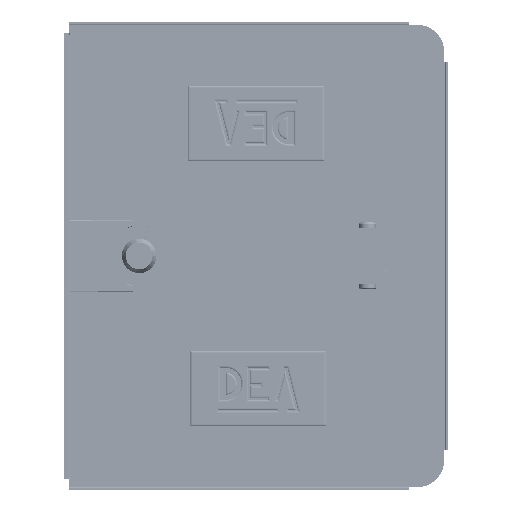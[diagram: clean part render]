
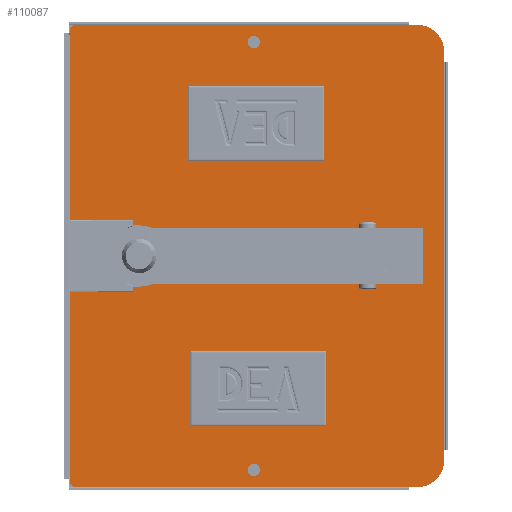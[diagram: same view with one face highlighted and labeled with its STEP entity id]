
A CAD part, top view. The second image highlights one B-rep face of the part: STEP entity #110087.
In plain terms, the highlighted planar face has unit normal (0, 0, 1).
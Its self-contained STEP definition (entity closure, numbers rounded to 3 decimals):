
#11368=CIRCLE('',#145583,5.5);
#11369=CIRCLE('',#145584,5.5);
#11370=CIRCLE('',#145585,24.5);
#11371=CIRCLE('',#145586,24.5);
#11372=CIRCLE('',#145587,5.);
#11373=CIRCLE('',#145588,5.);
#11374=CIRCLE('',#145589,27.5);
#11375=CIRCLE('',#145590,5.);
#11376=CIRCLE('',#145591,5.);
#18427=ORIENTED_EDGE('',*,*,#52223,.T.);
#18428=ORIENTED_EDGE('',*,*,#52224,.T.);
#18429=ORIENTED_EDGE('',*,*,#52225,.T.);
#18430=ORIENTED_EDGE('',*,*,#52226,.T.);
#18431=ORIENTED_EDGE('',*,*,#52227,.T.);
#18432=ORIENTED_EDGE('',*,*,#52228,.T.);
#18433=ORIENTED_EDGE('',*,*,#52229,.F.);
#18434=ORIENTED_EDGE('',*,*,#52230,.T.);
#18435=ORIENTED_EDGE('',*,*,#52231,.F.);
#18436=ORIENTED_EDGE('',*,*,#52232,.T.);
#18437=ORIENTED_EDGE('',*,*,#52233,.F.);
#18438=ORIENTED_EDGE('',*,*,#52234,.T.);
#18439=ORIENTED_EDGE('',*,*,#52235,.F.);
#18440=ORIENTED_EDGE('',*,*,#52236,.T.);
#18441=ORIENTED_EDGE('',*,*,#52237,.F.);
#18442=ORIENTED_EDGE('',*,*,#52238,.F.);
#18443=ORIENTED_EDGE('',*,*,#52239,.F.);
#18444=ORIENTED_EDGE('',*,*,#52240,.T.);
#18445=ORIENTED_EDGE('',*,*,#52241,.F.);
#18446=ORIENTED_EDGE('',*,*,#52242,.T.);
#18447=ORIENTED_EDGE('',*,*,#52243,.T.);
#18448=ORIENTED_EDGE('',*,*,#52244,.T.);
#18449=ORIENTED_EDGE('',*,*,#52245,.T.);
#18450=ORIENTED_EDGE('',*,*,#52246,.T.);
#52223=EDGE_CURVE('',#69240,#69241,#79594,.T.);
#52224=EDGE_CURVE('',#69241,#69242,#79595,.T.);
#52225=EDGE_CURVE('',#69242,#69243,#79596,.T.);
#52226=EDGE_CURVE('',#69243,#69240,#79597,.T.);
#52227=EDGE_CURVE('',#69244,#69244,#11368,.T.);
#52228=EDGE_CURVE('',#69245,#69245,#11369,.T.);
#52229=EDGE_CURVE('',#69246,#69247,#79598,.T.);
#52230=EDGE_CURVE('',#69246,#69248,#11370,.T.);
#52231=EDGE_CURVE('',#69249,#69248,#79599,.T.);
#52232=EDGE_CURVE('',#69249,#69250,#11371,.T.);
#52233=EDGE_CURVE('',#69251,#69250,#79600,.T.);
#52234=EDGE_CURVE('',#69251,#69252,#11372,.T.);
#52235=EDGE_CURVE('',#69253,#69252,#79601,.T.);
#52236=EDGE_CURVE('',#69253,#69254,#11373,.T.);
#52237=EDGE_CURVE('',#69255,#69254,#79602,.T.);
#52238=EDGE_CURVE('',#69256,#69255,#11374,.T.);
#52239=EDGE_CURVE('',#69257,#69256,#79603,.T.);
#52240=EDGE_CURVE('',#69257,#69258,#11375,.T.);
#52241=EDGE_CURVE('',#69259,#69258,#79604,.T.);
#52242=EDGE_CURVE('',#69259,#69247,#11376,.T.);
#52243=EDGE_CURVE('',#69260,#69261,#79605,.T.);
#52244=EDGE_CURVE('',#69261,#69262,#79606,.T.);
#52245=EDGE_CURVE('',#69262,#69263,#79607,.T.);
#52246=EDGE_CURVE('',#69263,#69260,#79608,.T.);
#69240=VERTEX_POINT('',#190333);
#69241=VERTEX_POINT('',#190334);
#69242=VERTEX_POINT('',#190336);
#69243=VERTEX_POINT('',#190338);
#69244=VERTEX_POINT('',#190341);
#69245=VERTEX_POINT('',#190343);
#69246=VERTEX_POINT('',#190345);
#69247=VERTEX_POINT('',#190346);
#69248=VERTEX_POINT('',#190348);
#69249=VERTEX_POINT('',#190350);
#69250=VERTEX_POINT('',#190352);
#69251=VERTEX_POINT('',#190354);
#69252=VERTEX_POINT('',#190356);
#69253=VERTEX_POINT('',#190358);
#69254=VERTEX_POINT('',#190360);
#69255=VERTEX_POINT('',#190362);
#69256=VERTEX_POINT('',#190364);
#69257=VERTEX_POINT('',#190366);
#69258=VERTEX_POINT('',#190368);
#69259=VERTEX_POINT('',#190370);
#69260=VERTEX_POINT('',#190373);
#69261=VERTEX_POINT('',#190374);
#69262=VERTEX_POINT('',#190376);
#69263=VERTEX_POINT('',#190378);
#79594=LINE('',#190332,#85768);
#79595=LINE('',#190335,#85769);
#79596=LINE('',#190337,#85770);
#79597=LINE('',#190339,#85771);
#79598=LINE('',#190344,#85772);
#79599=LINE('',#190349,#85773);
#79600=LINE('',#190353,#85774);
#79601=LINE('',#190357,#85775);
#79602=LINE('',#190361,#85776);
#79603=LINE('',#190365,#85777);
#79604=LINE('',#190369,#85778);
#79605=LINE('',#190372,#85779);
#79606=LINE('',#190375,#85780);
#79607=LINE('',#190377,#85781);
#79608=LINE('',#190379,#85782);
#85768=VECTOR('',#158900,1000.);
#85769=VECTOR('',#158901,1000.);
#85770=VECTOR('',#158902,1000.);
#85771=VECTOR('',#158903,1000.);
#85772=VECTOR('',#158908,1000.);
#85773=VECTOR('',#158911,1000.);
#85774=VECTOR('',#158914,1000.);
#85775=VECTOR('',#158917,1000.);
#85776=VECTOR('',#158920,1000.);
#85777=VECTOR('',#158923,1000.);
#85778=VECTOR('',#158926,1000.);
#85779=VECTOR('',#158929,1000.);
#85780=VECTOR('',#158930,1000.);
#85781=VECTOR('',#158931,1000.);
#85782=VECTOR('',#158932,1000.);
#91703=EDGE_LOOP('',(#18427,#18428,#18429,#18430));
#91704=EDGE_LOOP('',(#18431));
#91705=EDGE_LOOP('',(#18432));
#91706=EDGE_LOOP('',(#18433,#18434,#18435,#18436,#18437,#18438,#18439,#18440,
#18441,#18442,#18443,#18444,#18445,#18446));
#91707=EDGE_LOOP('',(#18447,#18448,#18449,#18450));
#99844=FACE_BOUND('',#91703,.T.);
#99845=FACE_BOUND('',#91704,.T.);
#99846=FACE_BOUND('',#91705,.T.);
#99847=FACE_BOUND('',#91706,.T.);
#99848=FACE_BOUND('',#91707,.T.);
#107787=PLANE('',#145582);
#110087=ADVANCED_FACE('',(#99844,#99845,#99846,#99847,#99848),#107787,.T.);
#145582=AXIS2_PLACEMENT_3D('',#190331,#158898,#158899);
#145583=AXIS2_PLACEMENT_3D('',#190340,#158904,#158905);
#145584=AXIS2_PLACEMENT_3D('',#190342,#158906,#158907);
#145585=AXIS2_PLACEMENT_3D('',#190347,#158909,#158910);
#145586=AXIS2_PLACEMENT_3D('',#190351,#158912,#158913);
#145587=AXIS2_PLACEMENT_3D('',#190355,#158915,#158916);
#145588=AXIS2_PLACEMENT_3D('',#190359,#158918,#158919);
#145589=AXIS2_PLACEMENT_3D('',#190363,#158921,#158922);
#145590=AXIS2_PLACEMENT_3D('',#190367,#158924,#158925);
#145591=AXIS2_PLACEMENT_3D('',#190371,#158927,#158928);
#158898=DIRECTION('',(0.,0.,1.));
#158899=DIRECTION('',(1.,0.,0.));
#158900=DIRECTION('',(-1.,0.,0.));
#158901=DIRECTION('',(0.,1.,0.));
#158902=DIRECTION('',(1.,0.,0.));
#158903=DIRECTION('',(0.,-1.,0.));
#158904=DIRECTION('',(0.,0.,-1.));
#158905=DIRECTION('',(0.,1.,0.));
#158906=DIRECTION('',(0.,0.,-1.));
#158907=DIRECTION('',(0.,1.,0.));
#158908=DIRECTION('',(0.,1.,0.));
#158909=DIRECTION('',(0.,0.,1.));
#158910=DIRECTION('',(1.,0.,0.));
#158911=DIRECTION('',(-1.,0.,0.));
#158912=DIRECTION('',(0.,0.,1.));
#158913=DIRECTION('',(1.,0.,0.));
#158914=DIRECTION('',(0.,-1.,0.));
#158915=DIRECTION('',(0.,0.,1.));
#158916=DIRECTION('',(1.,0.,0.));
#158917=DIRECTION('',(1.,0.,0.));
#158918=DIRECTION('',(0.,0.,1.));
#158919=DIRECTION('',(1.,0.,0.));
#158920=DIRECTION('',(0.,1.,0.));
#158921=DIRECTION('',(0.,0.,1.));
#158922=DIRECTION('',(-1.,0.,0.));
#158923=DIRECTION('',(0.,-1.,0.));
#158924=DIRECTION('',(0.,0.,1.));
#158925=DIRECTION('',(1.,0.,0.));
#158926=DIRECTION('',(1.,0.,0.));
#158927=DIRECTION('',(0.,0.,1.));
#158928=DIRECTION('',(1.,0.,0.));
#158929=DIRECTION('',(0.,-1.,0.));
#158930=DIRECTION('',(-1.,0.,0.));
#158931=DIRECTION('',(0.,1.,0.));
#158932=DIRECTION('',(1.,0.,0.));
#190331=CARTESIAN_POINT('',(0.,105.5,3.));
#190332=CARTESIAN_POINT('',(0.,-62.,3.));
#190333=CARTESIAN_POINT('',(-85.5,-62.,3.));
#190334=CARTESIAN_POINT('',(-152.5,-62.,3.));
#190335=CARTESIAN_POINT('',(-152.5,105.5,3.));
#190336=CARTESIAN_POINT('',(-152.5,60.,3.));
#190337=CARTESIAN_POINT('',(0.,60.,3.));
#190338=CARTESIAN_POINT('',(-85.5,60.,3.));
#190339=CARTESIAN_POINT('',(-85.5,105.5,3.));
#190340=CARTESIAN_POINT('',(-192.,3.,3.));
#190341=CARTESIAN_POINT('',(-192.,8.5,3.));
#190342=CARTESIAN_POINT('',(192.,3.,3.));
#190343=CARTESIAN_POINT('',(192.,8.5,3.));
#190344=CARTESIAN_POINT('',(-207.5,-168.,3.));
#190345=CARTESIAN_POINT('',(-207.5,-143.5,3.));
#190346=CARTESIAN_POINT('',(-207.5,163.,3.));
#190347=CARTESIAN_POINT('',(-183.,-143.5,3.));
#190348=CARTESIAN_POINT('',(-183.,-168.,3.));
#190349=CARTESIAN_POINT('',(207.5,-168.,3.));
#190350=CARTESIAN_POINT('',(183.,-168.,3.));
#190351=CARTESIAN_POINT('',(183.,-143.5,3.));
#190352=CARTESIAN_POINT('',(207.5,-143.5,3.));
#190353=CARTESIAN_POINT('',(207.5,168.,3.));
#190354=CARTESIAN_POINT('',(207.5,163.,3.));
#190355=CARTESIAN_POINT('',(202.5,163.,3.));
#190356=CARTESIAN_POINT('',(202.5,168.,3.));
#190357=CARTESIAN_POINT('',(27.5,168.,3.));
#190358=CARTESIAN_POINT('',(32.5,168.,3.));
#190359=CARTESIAN_POINT('',(32.5,163.,3.));
#190360=CARTESIAN_POINT('',(27.5,163.,3.));
#190361=CARTESIAN_POINT('',(27.5,105.5,3.));
#190362=CARTESIAN_POINT('',(27.5,105.5,3.));
#190363=CARTESIAN_POINT('',(0.,105.5,3.));
#190364=CARTESIAN_POINT('',(-27.5,105.5,3.));
#190365=CARTESIAN_POINT('',(-27.5,168.,3.));
#190366=CARTESIAN_POINT('',(-27.5,163.,3.));
#190367=CARTESIAN_POINT('',(-32.5,163.,3.));
#190368=CARTESIAN_POINT('',(-32.5,168.,3.));
#190369=CARTESIAN_POINT('',(-207.5,168.,3.));
#190370=CARTESIAN_POINT('',(-202.5,168.,3.));
#190371=CARTESIAN_POINT('',(-202.5,163.,3.));
#190372=CARTESIAN_POINT('',(152.5,105.5,3.));
#190373=CARTESIAN_POINT('',(152.5,62.,3.));
#190374=CARTESIAN_POINT('',(152.5,-60.,3.));
#190375=CARTESIAN_POINT('',(0.,-60.,3.));
#190376=CARTESIAN_POINT('',(85.5,-60.,3.));
#190377=CARTESIAN_POINT('',(85.5,105.5,3.));
#190378=CARTESIAN_POINT('',(85.5,62.,3.));
#190379=CARTESIAN_POINT('',(0.,62.,3.));
